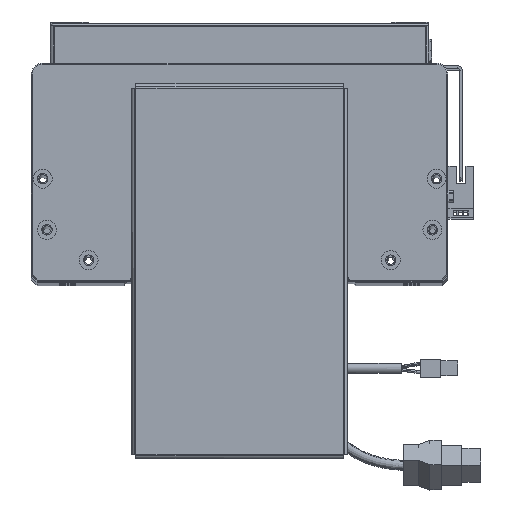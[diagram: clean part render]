
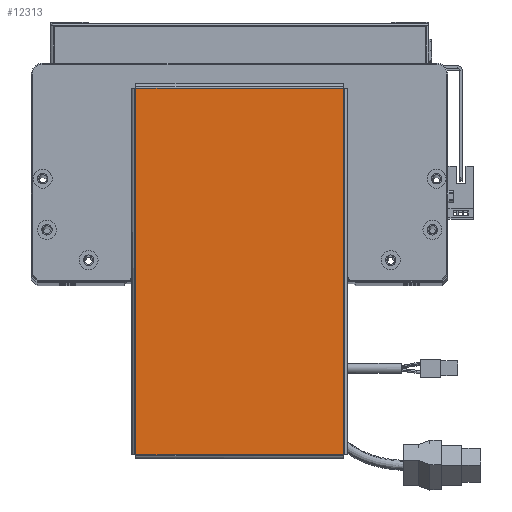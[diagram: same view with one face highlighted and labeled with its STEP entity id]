
A CAD part, top view. The second image highlights one B-rep face of the part: STEP entity #12313.
In plain terms, the highlighted planar face has unit normal (0, 0, 1).
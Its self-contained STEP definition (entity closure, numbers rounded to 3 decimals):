
#730 = AXIS2_PLACEMENT_3D ( 'NONE', #27562, #12713, #22926 ) ;
#3365 = CARTESIAN_POINT ( 'NONE',  ( 96.763, 54.763, 0. ) ) ;
#4694 = CARTESIAN_POINT ( 'NONE',  ( -96.763, 54.763, 0. ) ) ;
#5583 = DIRECTION ( 'NONE',  ( 0., -1., 0. ) ) ;
#7667 = LINE ( 'NONE', #21716, #63366 ) ;
#8962 = VECTOR ( 'NONE', #5583, 1000. ) ;
#10211 = VECTOR ( 'NONE', #33676, 1000. ) ;
#10683 = VECTOR ( 'NONE', #62705, 1000. ) ;
#11989 = CARTESIAN_POINT ( 'NONE',  ( -96.793, -54.763, 0. ) ) ;
#12313 = ADVANCED_FACE ( 'NONE', ( #21244 ), #48921, .T. ) ;
#12713 = DIRECTION ( 'NONE',  ( 0., 0., 1. ) ) ;
#19627 = VERTEX_POINT ( 'NONE', #4694 ) ;
#20176 = EDGE_LOOP ( 'NONE', ( #21770, #64328, #56612, #32927 ) ) ;
#20191 = LINE ( 'NONE', #11989, #10683 ) ;
#20703 = EDGE_CURVE ( 'NONE', #42000, #19627, #7667, .T. ) ;
#21244 = FACE_OUTER_BOUND ( 'NONE', #20176, .T. ) ;
#21716 = CARTESIAN_POINT ( 'NONE',  ( 96.793, 54.763, 0. ) ) ;
#21770 = ORIENTED_EDGE ( 'NONE', *, *, #52568, .T. ) ;
#22926 = DIRECTION ( 'NONE',  ( 1., 0., 0. ) ) ;
#23075 = CARTESIAN_POINT ( 'NONE',  ( 96.763, -54.793, 0. ) ) ;
#25370 = CARTESIAN_POINT ( 'NONE',  ( -96.763, 54.793, 0. ) ) ;
#27228 = DIRECTION ( 'NONE',  ( -1., 0., 0. ) ) ;
#27562 = CARTESIAN_POINT ( 'NONE',  ( 0., 0., 0. ) ) ;
#28888 = LINE ( 'NONE', #25370, #8962 ) ;
#29352 = VERTEX_POINT ( 'NONE', #49818 ) ;
#32927 = ORIENTED_EDGE ( 'NONE', *, *, #53437, .T. ) ;
#33676 = DIRECTION ( 'NONE',  ( 0., 1., 0. ) ) ;
#38038 = LINE ( 'NONE', #23075, #10211 ) ;
#39658 = VERTEX_POINT ( 'NONE', #54303 ) ;
#42000 = VERTEX_POINT ( 'NONE', #3365 ) ;
#48875 = EDGE_CURVE ( 'NONE', #29352, #42000, #38038, .T. ) ;
#48921 = PLANE ( 'NONE',  #730 ) ;
#49818 = CARTESIAN_POINT ( 'NONE',  ( 96.763, -54.763, 0. ) ) ;
#52568 = EDGE_CURVE ( 'NONE', #39658, #29352, #20191, .T. ) ;
#53437 = EDGE_CURVE ( 'NONE', #19627, #39658, #28888, .T. ) ;
#54303 = CARTESIAN_POINT ( 'NONE',  ( -96.763, -54.763, 0. ) ) ;
#56612 = ORIENTED_EDGE ( 'NONE', *, *, #20703, .T. ) ;
#62705 = DIRECTION ( 'NONE',  ( 1., 0., 0. ) ) ;
#63366 = VECTOR ( 'NONE', #27228, 1000. ) ;
#64328 = ORIENTED_EDGE ( 'NONE', *, *, #48875, .T. ) ;
